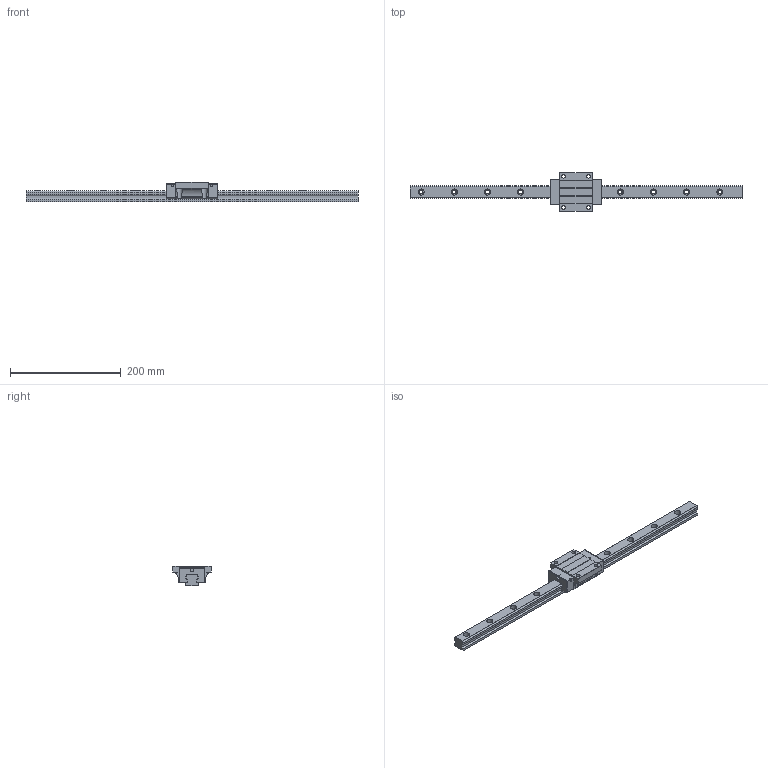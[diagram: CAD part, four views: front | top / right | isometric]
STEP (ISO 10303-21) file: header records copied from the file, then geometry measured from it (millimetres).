
FILE_DESCRIPTION (( 'STEP AP203' ), '1' );
FILE_NAME ('TRH25FN-WW.STEP', '2024-05-08T01:36:16', ( '' ), ( '' ), 'SwSTEP 2.0', 'SolidWorks 2022', '' );
FILE_SCHEMA (( 'CONFIG_CONTROL_DESIGN' ));
Length unit declared in the file: millimetre
Products named in the file (1): TRH25FN-WW
Bounding box: 600 x 70 x 36 mm (x, y, z)
Volume: 344869.2 mm3; surface area: 82445.9 mm2
Topology: 2 solids, 2 shells, 230 faces, 622 edges, 408 vertices
Faces by surface type: cylinder 130, plane 96, sphere 4
Entity records: 7874 total; most frequent: CARTESIAN_POINT 1820, DIRECTION 1274, ORIENTED_EDGE 1236, EDGE_CURVE 618, AXIS2_PLACEMENT_3D 459, VERTEX_POINT 408, VECTOR 356, LINE 356
